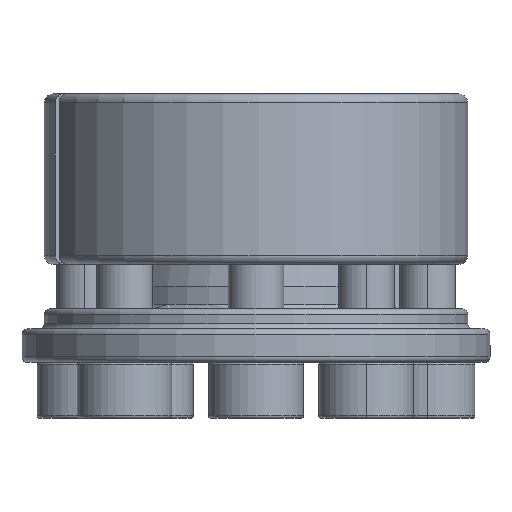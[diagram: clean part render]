
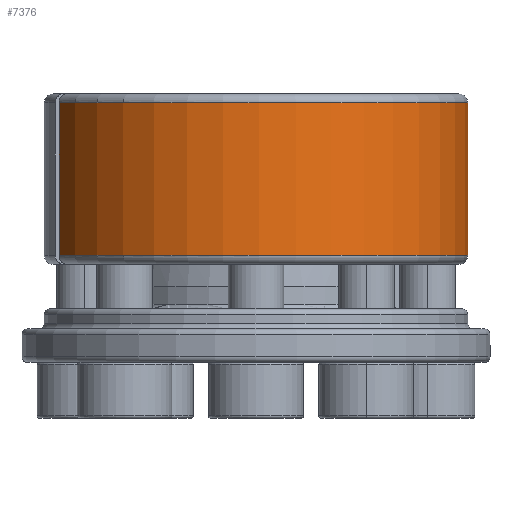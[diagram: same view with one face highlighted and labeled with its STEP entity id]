
A CAD part, front view. The second image highlights one B-rep face of the part: STEP entity #7376.
In plain terms, the highlighted cylindrical face has radius 19 mm (diameter 38 mm), a partial arc.
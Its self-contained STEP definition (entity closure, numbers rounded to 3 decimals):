
#1801 = EDGE_LOOP ( 'NONE', ( #9169, #9162, #2319, #9174 ) ) ;
#2319 = ORIENTED_EDGE ( 'NONE', *, *, #2621, .F. ) ;
#2592 = EDGE_CURVE ( 'NONE', #8526, #7594, #8926, .T. ) ;
#2621 = EDGE_CURVE ( 'NONE', #7472, #7594, #8968, .T. ) ;
#2703 = DIRECTION ( 'NONE',  ( 0., 0., 1. ) ) ;
#2704 = CARTESIAN_POINT ( 'NONE',  ( -17.677, -6.966, -16.3 ) ) ;
#2822 = DIRECTION ( 'NONE',  ( -1., 0., 0. ) ) ;
#2823 = DIRECTION ( 'NONE',  ( 0., 0., -1. ) ) ;
#2824 = CARTESIAN_POINT ( 'NONE',  ( 0., 0., -0.8 ) ) ;
#3314 = CARTESIAN_POINT ( 'NONE',  ( 19., 0., -0.8 ) ) ;
#3353 = CARTESIAN_POINT ( 'NONE',  ( 19., 0., -14.5 ) ) ;
#3530 = DIRECTION ( 'NONE',  ( 0., 0., -1. ) ) ;
#3648 = CARTESIAN_POINT ( 'NONE',  ( 19., 0., -16.3 ) ) ;
#3744 = LINE ( 'NONE', #3648, #3746 ) ;
#3746 = VECTOR ( 'NONE', #3530, 1000. ) ;
#4785 = CARTESIAN_POINT ( 'NONE',  ( 0., 0., -14.5 ) ) ;
#4788 = DIRECTION ( 'NONE',  ( 0., 0., -1. ) ) ;
#4790 = DIRECTION ( 'NONE',  ( -1., 0., 0. ) ) ;
#5219 = FACE_OUTER_BOUND ( 'NONE', #1801, .T. ) ;
#5223 = CYLINDRICAL_SURFACE ( 'NONE', #6538, 19. ) ;
#5530 = CIRCLE ( 'NONE', #6656, 19. ) ;
#5725 = CARTESIAN_POINT ( 'NONE',  ( -17.677, -6.966, -0.8 ) ) ;
#6538 = AXIS2_PLACEMENT_3D ( 'NONE', #9549, #9551, #9553 ) ;
#6656 = AXIS2_PLACEMENT_3D ( 'NONE', #4785, #4788, #4790 ) ;
#6923 = CARTESIAN_POINT ( 'NONE',  ( -17.677, -6.966, -14.5 ) ) ;
#7376 = ADVANCED_FACE ( 'NONE', ( #5219 ), #5223, .T. ) ;
#7472 = VERTEX_POINT ( 'NONE', #6923 ) ;
#7594 = VERTEX_POINT ( 'NONE', #5725 ) ;
#8125 = AXIS2_PLACEMENT_3D ( 'NONE', #2824, #2823, #2822 ) ;
#8244 = EDGE_CURVE ( 'NONE', #8417, #7472, #5530, .T. ) ;
#8417 = VERTEX_POINT ( 'NONE', #3353 ) ;
#8526 = VERTEX_POINT ( 'NONE', #3314 ) ;
#8926 = CIRCLE ( 'NONE', #8125, 19. ) ;
#8968 = LINE ( 'NONE', #2704, #8971 ) ;
#8971 = VECTOR ( 'NONE', #2703, 1000. ) ;
#9162 = ORIENTED_EDGE ( 'NONE', *, *, #2592, .T. ) ;
#9169 = ORIENTED_EDGE ( 'NONE', *, *, #10534, .F. ) ;
#9174 = ORIENTED_EDGE ( 'NONE', *, *, #8244, .F. ) ;
#9549 = CARTESIAN_POINT ( 'NONE',  ( 0., 0., -16.3 ) ) ;
#9551 = DIRECTION ( 'NONE',  ( 0., 0., -1. ) ) ;
#9553 = DIRECTION ( 'NONE',  ( -1., 0., 0. ) ) ;
#10534 = EDGE_CURVE ( 'NONE', #8526, #8417, #3744, .T. ) ;
